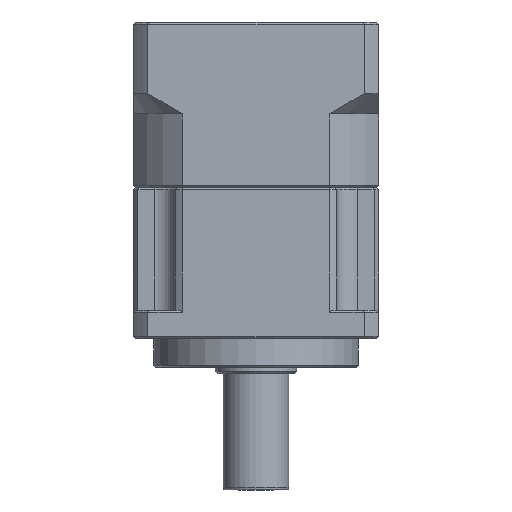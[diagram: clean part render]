
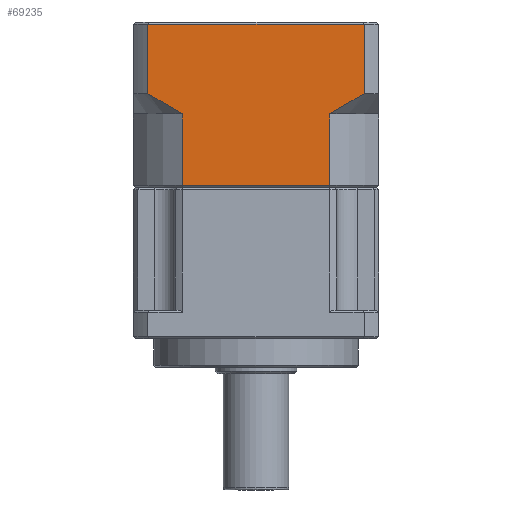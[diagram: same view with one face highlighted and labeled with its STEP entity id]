
A CAD part, front view. The second image highlights one B-rep face of the part: STEP entity #69235.
In plain terms, the highlighted planar face has unit normal (0, -1, 0).
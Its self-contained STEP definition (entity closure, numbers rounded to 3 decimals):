
#499 = VERTEX_POINT ( 'NONE', #40536 ) ;
#742 = CARTESIAN_POINT ( 'NONE',  ( -41.111, -27.039, 130.551 ) ) ;
#1278 = EDGE_CURVE ( 'NONE', #63673, #76955, #36196, .T. ) ;
#2531 = VECTOR ( 'NONE', #72349, 1000. ) ;
#7765 = DIRECTION ( 'NONE',  ( 1., 0., 0. ) ) ;
#9281 = CARTESIAN_POINT ( 'NONE',  ( -45.297, -27.039, 133.1 ) ) ;
#9447 = ORIENTED_EDGE ( 'NONE', *, *, #1278, .F. ) ;
#16541 = EDGE_CURVE ( 'NONE', #26527, #61543, #50782, .T. ) ;
#18924 = DIRECTION ( 'NONE',  ( 0., 0., -1. ) ) ;
#21361 = B_SPLINE_CURVE_WITH_KNOTS ( 'NONE', 3,
 ( #43113, #93884, #742, #60174, #9281, #68671 ),
 .UNSPECIFIED., .F., .F.,
 ( 4, 2, 4 ),
 ( 0., 0.005, 0.01 ),
 .UNSPECIFIED. ) ;
#22262 = CARTESIAN_POINT ( 'NONE',  ( -2.175, -27.039, 129.002 ) ) ;
#23335 = VERTEX_POINT ( 'NONE', #59822 ) ;
#24041 = B_SPLINE_CURVE_WITH_KNOTS ( 'NONE', 3,
 ( #53635, #104429, #28401, #87795, #36963, #96278 ),
 .UNSPECIFIED., .F., .F.,
 ( 4, 2, 4 ),
 ( 0., 0.005, 0.01 ),
 .UNSPECIFIED. ) ;
#25295 = VECTOR ( 'NONE', #32621, 1000. ) ;
#26527 = VERTEX_POINT ( 'NONE', #22262 ) ;
#27802 = LINE ( 'NONE', #97514, #2531 ) ;
#28202 = DIRECTION ( 'NONE',  ( 0., -1., 0. ) ) ;
#28401 = CARTESIAN_POINT ( 'NONE',  ( 3.51, -27.039, 132.225 ) ) ;
#29676 = EDGE_CURVE ( 'NONE', #61543, #23335, #90334, .T. ) ;
#30111 = AXIS2_PLACEMENT_3D ( 'NONE', #79052, #28202, #87589 ) ;
#32621 = DIRECTION ( 'NONE',  ( -1., 0., 0. ) ) ;
#34333 = CARTESIAN_POINT ( 'NONE',  ( 6.254, -27.039, 91.775 ) ) ;
#35418 = CARTESIAN_POINT ( 'NONE',  ( 6.254, -27.039, 151.002 ) ) ;
#36196 = LINE ( 'NONE', #50080, #56150 ) ;
#36401 = PLANE ( 'NONE',  #30111 ) ;
#36594 = VERTEX_POINT ( 'NONE', #54556 ) ;
#36963 = CARTESIAN_POINT ( 'NONE',  ( -0.721, -27.039, 129.751 ) ) ;
#40423 = CARTESIAN_POINT ( 'NONE',  ( -2.175, -27.039, 111.502 ) ) ;
#40536 = CARTESIAN_POINT ( 'NONE',  ( 6.254, -27.039, 134.002 ) ) ;
#41498 = CARTESIAN_POINT ( 'NONE',  ( -46.661, -27.039, 151.002 ) ) ;
#43113 = CARTESIAN_POINT ( 'NONE',  ( -38.231, -27.039, 129.002 ) ) ;
#43807 = ORIENTED_EDGE ( 'NONE', *, *, #80046, .F. ) ;
#44151 = CARTESIAN_POINT ( 'NONE',  ( -2.175, -27.039, 91.775 ) ) ;
#48114 = VECTOR ( 'NONE', #18924, 1000. ) ;
#49886 = EDGE_CURVE ( 'NONE', #109786, #63673, #85522, .T. ) ;
#49947 = CARTESIAN_POINT ( 'NONE',  ( -46.661, -27.039, 91.775 ) ) ;
#50080 = CARTESIAN_POINT ( 'NONE',  ( 9.797, -27.039, 151.002 ) ) ;
#50782 = LINE ( 'NONE', #44151, #48114 ) ;
#53635 = CARTESIAN_POINT ( 'NONE',  ( 6.254, -27.039, 134.002 ) ) ;
#54556 = CARTESIAN_POINT ( 'NONE',  ( -38.231, -27.039, 129.002 ) ) ;
#54948 = EDGE_LOOP ( 'NONE', ( #68413, #9447, #109546, #99502, #65428, #105403, #64060, #43807 ) ) ;
#56150 = VECTOR ( 'NONE', #7765, 1000. ) ;
#59434 = CARTESIAN_POINT ( 'NONE',  ( -46.661, -27.039, 134.002 ) ) ;
#59822 = CARTESIAN_POINT ( 'NONE',  ( -38.231, -27.039, 111.502 ) ) ;
#60174 = CARTESIAN_POINT ( 'NONE',  ( -43.916, -27.039, 132.225 ) ) ;
#61543 = VERTEX_POINT ( 'NONE', #40423 ) ;
#63673 = VERTEX_POINT ( 'NONE', #41498 ) ;
#64060 = ORIENTED_EDGE ( 'NONE', *, *, #16541, .F. ) ;
#65428 = ORIENTED_EDGE ( 'NONE', *, *, #84152, .F. ) ;
#68413 = ORIENTED_EDGE ( 'NONE', *, *, #105416, .F. ) ;
#68671 = CARTESIAN_POINT ( 'NONE',  ( -46.661, -27.039, 134.002 ) ) ;
#69235 = ADVANCED_FACE ( 'NONE', ( #97449 ), #36401, .T. ) ;
#72349 = DIRECTION ( 'NONE',  ( 0., 0., 1. ) ) ;
#76955 = VERTEX_POINT ( 'NONE', #35418 ) ;
#77190 = EDGE_CURVE ( 'NONE', #36594, #109786, #21361, .T. ) ;
#79052 = CARTESIAN_POINT ( 'NONE',  ( 9.797, -27.039, 111.002 ) ) ;
#80046 = EDGE_CURVE ( 'NONE', #499, #26527, #24041, .T. ) ;
#83480 = CARTESIAN_POINT ( 'NONE',  ( 9.797, -27.039, 111.502 ) ) ;
#84152 = EDGE_CURVE ( 'NONE', #23335, #36594, #27802, .T. ) ;
#85160 = DIRECTION ( 'NONE',  ( 0., 0., -1. ) ) ;
#85522 = LINE ( 'NONE', #49947, #105383 ) ;
#87583 = LINE ( 'NONE', #34333, #110084 ) ;
#87589 = DIRECTION ( 'NONE',  ( 0., 0., -1. ) ) ;
#87795 = CARTESIAN_POINT ( 'NONE',  ( 0.704, -27.039, 130.551 ) ) ;
#90334 = LINE ( 'NONE', #83480, #25295 ) ;
#92240 = DIRECTION ( 'NONE',  ( 0., 0., 1. ) ) ;
#93884 = CARTESIAN_POINT ( 'NONE',  ( -39.686, -27.039, 129.751 ) ) ;
#96278 = CARTESIAN_POINT ( 'NONE',  ( -2.175, -27.039, 129.002 ) ) ;
#97449 = FACE_OUTER_BOUND ( 'NONE', #54948, .T. ) ;
#97514 = CARTESIAN_POINT ( 'NONE',  ( -38.231, -27.039, 91.775 ) ) ;
#99502 = ORIENTED_EDGE ( 'NONE', *, *, #77190, .F. ) ;
#104429 = CARTESIAN_POINT ( 'NONE',  ( 4.89, -27.039, 133.1 ) ) ;
#105383 = VECTOR ( 'NONE', #92240, 1000. ) ;
#105403 = ORIENTED_EDGE ( 'NONE', *, *, #29676, .F. ) ;
#105416 = EDGE_CURVE ( 'NONE', #76955, #499, #87583, .T. ) ;
#109546 = ORIENTED_EDGE ( 'NONE', *, *, #49886, .F. ) ;
#109786 = VERTEX_POINT ( 'NONE', #59434 ) ;
#110084 = VECTOR ( 'NONE', #85160, 1000. ) ;
